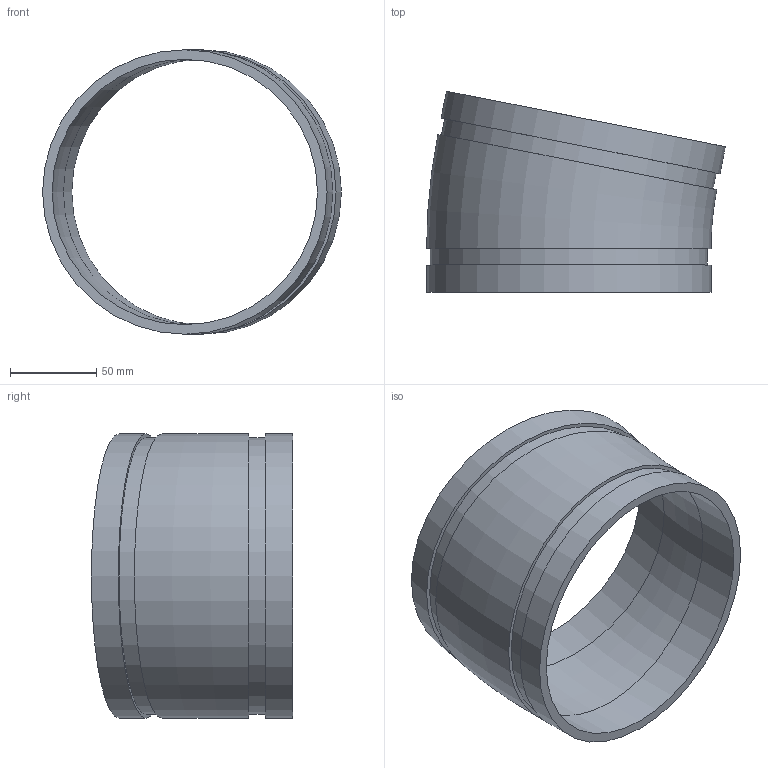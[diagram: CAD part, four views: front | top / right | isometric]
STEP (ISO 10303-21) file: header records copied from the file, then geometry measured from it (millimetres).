
FILE_DESCRIPTION(/* description */ ('VIC 11-1/4 DEG. ELBOW No 13','CAx-IF Rec.Pracs.---Representation and Presentation of Product Manufacturing Information (PMI)---4.0---2014-10-13'),/* implementation_level */ '2;1');
FILE_NAME(/* name */ 'C:\Users\kkamble\AppData\Roaming\Autodesk\ApplicationPlugins\Back Up\Victaulic_IPS_Elbow 11.25 Deg_No 13 (OGS)\Victaulic_IPS_Elbow 11.25 Deg_No 13 (OGS)_06.0 (165.1) (150).stp',/* time_stamp */ '2020-07-24T08:09:22+06:00',/* author */ ('CONSTRUCTION PIPING SERVICES'),/* organization */ ('Victaulic'),/* preprocessor_version */ 'ST-DEVELOPER v17.2',/* originating_system */ 'Autodesk Inventor 2019',/* authorisation */ '');
FILE_SCHEMA (('AP242_MANAGED_MODEL_BASED_3D_ENGINEERING_MIM_LF { 1 0 10303 442 1 1 4 }'));
Length unit declared in the file: inch
Products named in the file (1): 013-06.0 (165.1)
Bounding box: 173.42 x 116.73 x 165.1 mm (x, y, z)
Volume: 259880.2 mm3; surface area: 111406.1 mm2
Topology: 1 solids, 1 shells, 14 faces, 32 edges, 24 vertices
Faces by surface type: plane 6, cylinder 6, torus 2
Full cylindrical faces by diameter (mm): 154.051 x2, 160.782 x2, 165.1 x2
Entity records: 487 total; most frequent: DIRECTION 88, CARTESIAN_POINT 71, ORIENTED_EDGE 64, AXIS2_PLACEMENT_3D 41, EDGE_CURVE 32, CIRCLE 26, VERTEX_POINT 24, EDGE_LOOP 20
